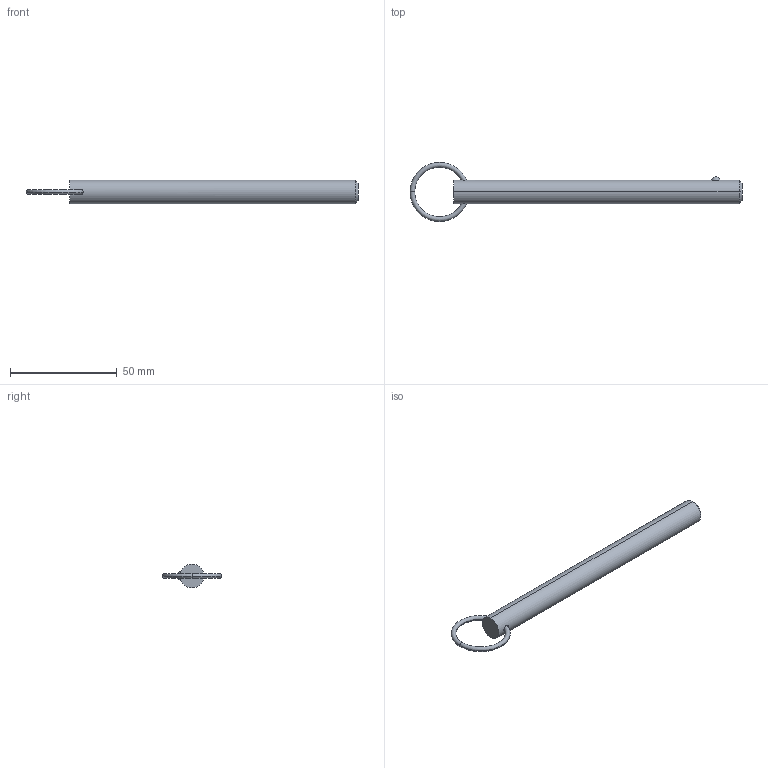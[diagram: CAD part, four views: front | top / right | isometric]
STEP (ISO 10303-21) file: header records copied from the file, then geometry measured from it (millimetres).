
FILE_DESCRIPTION (( 'STEP AP203' ), '1' );
FILE_NAME ('33012.W4345.step', '2024-11-01T14:12:00', ( '' ), ( '' ), 'SwSTEP 2.0', 'SolidWorks 2019', '' );
FILE_SCHEMA (( 'CONFIG_CONTROL_DESIGN' ));
Length unit declared in the file: millimetre
Products named in the file (3): 33012.W4345; Part2_33012.W4345; Part1_33012.W4345
Assembly tree (2 placements, depth 2):
  33012.W4345
    Part1_33012.W4345
    Part2_33012.W4345
Bounding box: 155.33 x 27.62 x 11.11 mm (x, y, z)
Volume: 13301 mm3; surface area: 5523 mm2
Topology: 2 solids, 2 shells, 16 faces, 31 edges, 18 vertices
Faces by surface type: torus 8, sphere 2, cone 2, cylinder 2, plane 2
Entity records: 863 total; most frequent: CARTESIAN_POINT 220, DIRECTION 88, ORIENTED_EDGE 62, AXIS2_PLACEMENT_3D 42, EDGE_CURVE 31, PERSON_AND_ORGANIZATION 26, CIRCLE 21, EDGE_LOOP 19
